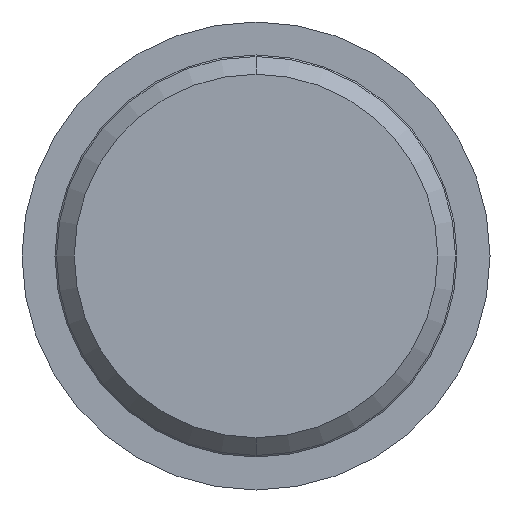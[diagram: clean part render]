
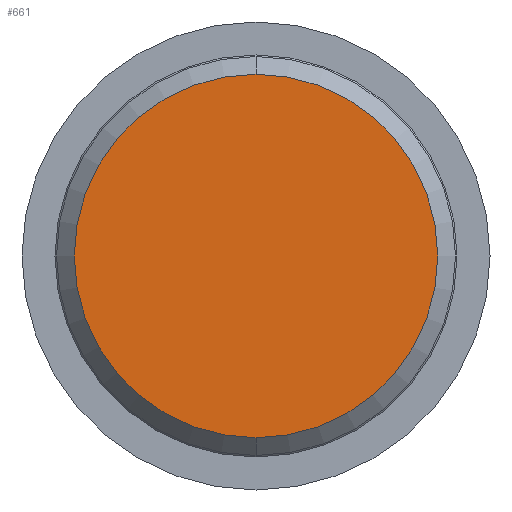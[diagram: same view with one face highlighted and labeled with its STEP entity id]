
A CAD part, front view. The second image highlights one B-rep face of the part: STEP entity #661.
In plain terms, the highlighted planar face has unit normal (0, -1, 0).
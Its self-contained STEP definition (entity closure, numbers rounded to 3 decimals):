
#14 = VERTEX_POINT ( 'NONE', #149 ) ;
#54 = CARTESIAN_POINT ( 'NONE',  ( 0., 0., 0. ) ) ;
#149 = CARTESIAN_POINT ( 'NONE',  ( 0., 0., 15.146 ) ) ;
#155 = CARTESIAN_POINT ( 'NONE',  ( 0., 0., -15.146 ) ) ;
#164 = CARTESIAN_POINT ( 'NONE',  ( 15.146, 0., 0. ) ) ;
#232 = PLANE ( 'NONE',  #585 ) ;
#234 = EDGE_CURVE ( 'NONE', #560, #14, #376, .T. ) ;
#264 = DIRECTION ( 'NONE',  ( 0., 0., 1. ) ) ;
#300 = EDGE_LOOP ( 'NONE', ( #408, #538 ) ) ;
#307 = AXIS2_PLACEMENT_3D ( 'NONE', #313, #623, #264 ) ;
#313 = CARTESIAN_POINT ( 'NONE',  ( 0., 0., 0. ) ) ;
#344 = DIRECTION ( 'NONE',  ( 0., 0., 1. ) ) ;
#376 = CIRCLE ( 'NONE', #571, 15.146 ) ;
#408 = ORIENTED_EDGE ( 'NONE', *, *, #496, .F. ) ;
#496 = EDGE_CURVE ( 'NONE', #14, #560, #640, .T. ) ;
#538 = ORIENTED_EDGE ( 'NONE', *, *, #234, .F. ) ;
#560 = VERTEX_POINT ( 'NONE', #155 ) ;
#571 = AXIS2_PLACEMENT_3D ( 'NONE', #54, #576, #344 ) ;
#576 = DIRECTION ( 'NONE',  ( 0., 1., 0. ) ) ;
#580 = DIRECTION ( 'NONE',  ( 0., 1., 0. ) ) ;
#585 = AXIS2_PLACEMENT_3D ( 'NONE', #164, #580, #639 ) ;
#623 = DIRECTION ( 'NONE',  ( 0., 1., 0. ) ) ;
#639 = DIRECTION ( 'NONE',  ( 0., 0., 1. ) ) ;
#640 = CIRCLE ( 'NONE', #307, 15.146 ) ;
#661 = ADVANCED_FACE ( 'NONE', ( #757 ), #232, .F. ) ;
#757 = FACE_OUTER_BOUND ( 'NONE', #300, .T. ) ;
